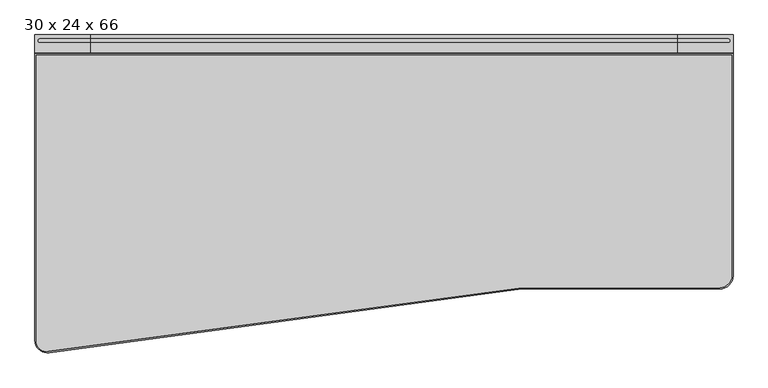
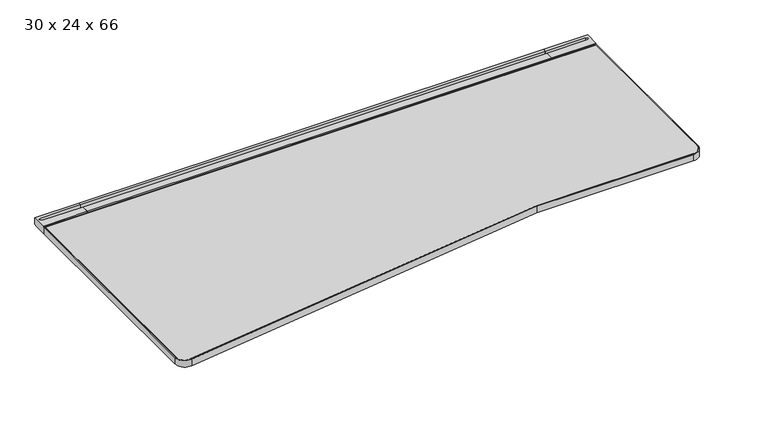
"""IFC4 building model written with IfcOpenShell, lengths in millimetres: furniture geometry, Steelcase - C Scape - Desking - Left Hand Transition : 30 x 24 x 66."""

import ifcopenshell
import ifcopenshell.guid

model = None  # the IFC model being written
_history = None  # IfcOwnerHistory: only IFC2X3 demands one
_inside = {}  # id of a spatial element -> (the spatial element, [elements in it])
_under = {}  # id of a project, library or spatial element -> (it, [spatial elements below it])
_declared = {}  # id of a project -> (the project, [libraries it declares])
_typed = {}  # id of a type object -> (the type object, [elements of that type])
_made_of = {}  # id of a material, layer set ... -> (it, [elements and type objects made of it])


def new_model(schema):
    """Start an empty IFC model of exactly this schema.

    Asked for "IFC4X3", IfcOpenShell would pick the latest addendum, in which some entities
    have other attributes; the version numbers below select the first issue.
    IFC2X3 requires an IfcOwnerHistory on every rooted entity: one is made here for all.
    """
    global model, _history
    if schema == "IFC4X3":
        model = ifcopenshell.file(schema_version=(4, 3, 0, 0))
    else:
        model = ifcopenshell.file(schema=schema)
    _inside.clear()
    _under.clear()
    _declared.clear()
    _typed.clear()
    _made_of.clear()
    _history = None
    if model.schema == "IFC2X3":
        org = make("IfcOrganization", Name="unknown")
        user = make(
            "IfcPersonAndOrganization",
            ThePerson=make("IfcPerson", FamilyName="unknown"),
            TheOrganization=org,
        )
        app = make(
            "IfcApplication",
            ApplicationDeveloper=org,
            Version="unknown",
            ApplicationFullName="unknown",
            ApplicationIdentifier="unknown",
        )
        _history = make(
            "IfcOwnerHistory",
            OwningUser=user,
            OwningApplication=app,
            ChangeAction="ADDED",
            CreationDate=0,
        )
    return model


def make(cls, **values):
    """One entity of the class cls with the attributes given. An attribute that is None is left unset."""
    return model.create_entity(
        cls, **{name: value for name, value in values.items() if value is not None}
    )


def rooted(cls, **values):
    """An entity with a GlobalId (a new one), such as an element, a storey or a relation."""
    return make(cls, GlobalId=ifcopenshell.guid.new(), OwnerHistory=_history, **values)


def si_unit(unit_type, name, prefix=None):
    """IfcSIUnit, for example si_unit("LENGTHUNIT", "METRE", prefix="MILLI")."""
    return make("IfcSIUnit", UnitType=unit_type, Prefix=prefix, Name=name)


def assignment(units):
    """IfcUnitAssignment: the units of a project."""
    return None if units is None else make("IfcUnitAssignment", Units=units)


def point(xyz):
    """IfcCartesianPoint."""
    return None if xyz is None else make("IfcCartesianPoint", Coordinates=xyz)


def direction(xyz):
    """IfcDirection."""
    return None if xyz is None else make("IfcDirection", DirectionRatios=xyz)


def frame(location, z_axis=None, x_axis=None):
    """IfcAxis2Placement3D, a coordinate frame: its origin and axes. An axis left out is left unset."""
    return make(
        "IfcAxis2Placement3D",
        Location=point(location),
        Axis=direction(z_axis),
        RefDirection=direction(x_axis),
    )


def frame_2d(location, x_axis=None):
    """IfcAxis2Placement2D, a coordinate frame in the plane: its origin and x axis."""
    return make(
        "IfcAxis2Placement2D", Location=point(location), RefDirection=direction(x_axis)
    )


def origin():
    """The frame at (0, 0, 0) with its axes left unset."""
    return frame((0.0, 0.0, 0.0))


def place(relative_to, where):
    """IfcLocalPlacement: puts the frame where relative to a parent placement (None: the world)."""
    return make(
        "IfcLocalPlacement", PlacementRelTo=relative_to, RelativePlacement=where
    )


def context(
    kind, dimensions, precision=None, world=None, true_north=None, identifier=None
):
    """IfcGeometricRepresentationContext, for example the 3D "Model" context."""
    return make(
        "IfcGeometricRepresentationContext",
        ContextIdentifier=identifier,
        ContextType=kind,
        CoordinateSpaceDimension=dimensions,
        Precision=precision,
        WorldCoordinateSystem=world,
        TrueNorth=true_north,
    )


def project(units=None, contexts=None):
    """IfcProject with its units and contexts."""
    return rooted(
        "IfcProject",
        Name="project",
        RepresentationContexts=contexts,
        UnitsInContext=assignment(units),
    )


def spatial(cls, under=None, at=None, **own):
    """A site, building, storey or space (cls), placed at a placement, below another one or the project."""
    s = rooted(cls, ObjectPlacement=at, **own)
    if under is not None:
        _under.setdefault(under.id(), (under, []))[1].append(s)
    return s


def polyline(points):
    """IfcPolyline through the points."""
    return make("IfcPolyline", Points=[point(p) for p in points])


def circle_curve(where, radius):
    """IfcCircle in the frame where."""
    return make("IfcCircle", Position=where, Radius=radius)


def trimmed(basis, trim1, trim2, sense, master):
    """IfcTrimmedCurve: the piece of a basis curve between two trims."""
    return make(
        "IfcTrimmedCurve",
        BasisCurve=basis,
        Trim1=trim1,
        Trim2=trim2,
        SenseAgreement=sense,
        MasterRepresentation=master,
    )


def segment(curve, same_sense, transition):
    """IfcCompositeCurveSegment."""
    return make(
        "IfcCompositeCurveSegment",
        Transition=transition,
        SameSense=same_sense,
        ParentCurve=curve,
    )


def composite_curve(segments, self_intersect=None):
    """IfcCompositeCurve: segments joined end to end."""
    return make("IfcCompositeCurve", Segments=segments, SelfIntersect=self_intersect)


def outline(outer, holes=None, kind="AREA"):
    """IfcArbitraryClosedProfileDef: a profile drawn as a closed curve; with holes, ...WithVoids."""
    if holes is None:
        return make("IfcArbitraryClosedProfileDef", ProfileType=kind, OuterCurve=outer)
    return make(
        "IfcArbitraryProfileDefWithVoids",
        ProfileType=kind,
        OuterCurve=outer,
        InnerCurves=holes,
    )


def extrude(swept, where, along, depth):
    """IfcExtrudedAreaSolid: the profile swept, set in the frame where, extruded along a direction by depth."""
    return make(
        "IfcExtrudedAreaSolid",
        SweptArea=swept,
        Position=where,
        ExtrudedDirection=direction(along),
        Depth=depth,
    )


def faces_of(points, faces, orient=None, outer=None):
    """IfcFace entities. A face is a list of loops; a loop is a list of indices into points, from 0.

    orient and outer hold one flag for each loop. By default every Orientation is true, the
    first loop of a face is its IfcFaceOuterBound and the others are IfcFaceBound.
    """
    made = []
    for i, loops in enumerate(faces):
        bounds = []
        for j, loop in enumerate(loops):
            is_outer = j == 0 if outer is None else outer[i][j]
            bounds.append(
                make(
                    "IfcFaceOuterBound" if is_outer else "IfcFaceBound",
                    Bound=make("IfcPolyLoop", Polygon=[points[k] for k in loop]),
                    Orientation=True if orient is None else orient[i][j],
                )
            )
        made.append(make("IfcFace", Bounds=bounds))
    return made


def faceted_brep(points, faces, orient=None, outer=None, voids=None):
    """IfcFacetedBrep: a solid bounded by flat faces; with voids (closed shells), ...WithVoids."""
    shared = [point(p) for p in points]
    hull = make("IfcClosedShell", CfsFaces=faces_of(shared, faces, orient, outer))
    if voids is None:
        return make("IfcFacetedBrep", Outer=hull)
    return make(
        "IfcFacetedBrepWithVoids",
        Outer=hull,
        Voids=[
            make(cls, CfsFaces=faces_of(shared, fs, o, b)) for cls, fs, o, b in voids
        ],
    )


def shape(context_of_items, identifier, shape_type, items):
    """IfcShapeRepresentation: the items that make up one representation, for example the "Body"."""
    return make(
        "IfcShapeRepresentation",
        ContextOfItems=context_of_items,
        RepresentationIdentifier=identifier,
        RepresentationType=shape_type,
        Items=items,
    )


def source(mapping_origin, context_of_items, identifier, shape_type, items):
    """IfcRepresentationMap: a shape defined once, which mapped items show again and again."""
    return make(
        "IfcRepresentationMap",
        MappingOrigin=mapping_origin,
        MappedRepresentation=shape(context_of_items, identifier, shape_type, items),
    )


def transform(
    local_origin,
    x_axis=None,
    y_axis=None,
    z_axis=None,
    scale=None,
    scale2=None,
    scale3=None,
    uniform=True,
):
    """IfcCartesianTransformationOperator3D, or its non-uniform kind. x_axis, y_axis, z_axis: its Axis1, 2, 3."""
    if uniform:
        return make(
            "IfcCartesianTransformationOperator3D",
            Axis1=direction(x_axis),
            Axis2=direction(y_axis),
            LocalOrigin=point(local_origin),
            Scale=scale,
            Axis3=direction(z_axis),
        )
    return make(
        "IfcCartesianTransformationOperator3DnonUniform",
        Axis1=direction(x_axis),
        Axis2=direction(y_axis),
        LocalOrigin=point(local_origin),
        Scale=scale,
        Axis3=direction(z_axis),
        Scale2=scale2,
        Scale3=scale3,
    )


def mapped(mapping_source, mapping_target):
    """IfcMappedItem: shows the shape of a source again, moved by a transform."""
    return make(
        "IfcMappedItem", MappingSource=mapping_source, MappingTarget=mapping_target
    )


def made_of(thing, what):
    """Note that an element or type object is made of a material, layer set ...; save() writes the relation."""
    if what is not None:
        _made_of.setdefault(what.id(), (what, []))[1].append(thing)
    return thing


def element(
    cls,
    number,
    at=None,
    inside=None,
    cuts=None,
    type_object=None,
    material=None,
    context=None,
    identifier="Body",
    shape_type=None,
    held_by="IfcProductDefinitionShape",
    body=None,
    shapes=None,
    **own,
):
    """One element of the class cls, such as IfcWall. Its Tag is "e" and its number.

    at: its placement. inside: the storey or other place that contains it. cuts: it is an
    opening in that element (IfcRelVoidsElement). A single representation is given by context,
    identifier, shape_type and body (its items); several are given by shapes. held_by: the class
    of the entity that holds the representations. save() writes the other relations.
    """
    e = rooted(cls, Tag="e%d" % number, ObjectPlacement=at, **own)
    if body is not None:
        shapes = [shape(context, identifier, shape_type, body)]
    if shapes is not None:
        e.Representation = make(held_by, Representations=shapes)
    if inside is not None:
        _inside.setdefault(inside.id(), (inside, []))[1].append(e)
    if cuts is not None:
        rooted(
            "IfcRelVoidsElement", RelatingBuildingElement=cuts, RelatedOpeningElement=e
        )
    if type_object is not None:
        _typed.setdefault(type_object.id(), (type_object, []))[1].append(e)
    return made_of(e, material)


def aggregate(whole, parts):
    """IfcRelAggregates: a whole, such as a stair, and the parts it consists of."""
    return rooted("IfcRelAggregates", RelatingObject=whole, RelatedObjects=parts)


def save(model, path):
    """Write the relations noted so far, then the file.

    IfcRelAggregates (storeys below a building ...), IfcRelContainedInSpatialStructure (elements
    in a storey), IfcRelDefinesByType, IfcRelAssociatesMaterial and IfcRelDeclares: one each for
    every whole, place, type object, material and project.
    """
    for whole, parts in _under.values():
        aggregate(whole, parts)
    for where, things in _inside.values():
        rooted(
            "IfcRelContainedInSpatialStructure",
            RelatedElements=things,
            RelatingStructure=where,
        )
    for kind, things in _typed.values():
        rooted("IfcRelDefinesByType", RelatedObjects=things, RelatingType=kind)
    for what, things in _made_of.values():
        rooted("IfcRelAssociatesMaterial", RelatedObjects=things, RelatingMaterial=what)
    for by, libraries in _declared.values():
        rooted("IfcRelDeclares", RelatingContext=by, RelatedDefinitions=libraries)
    model.write(path)


def plane_surface(at):
    """IfcPlane: the flat surface through the origin of the frame at, square to its z axis."""
    return make("IfcPlane", Position=at)


def cylinder_surface(at, radius):
    """IfcCylindricalSurface: all points at the distance radius from the z axis of the frame at."""
    return make("IfcCylindricalSurface", Position=at, Radius=radius)


def revolved_surface(curve, axis_point, axis_direction):
    """IfcSurfaceOfRevolution: the curve turned about the line through axis_point along axis_direction."""
    return make(
        "IfcSurfaceOfRevolution",
        SweptCurve=make("IfcArbitraryOpenProfileDef", ProfileType="CURVE", Curve=curve),
        AxisPosition=make("IfcAxis1Placement", Location=point(axis_point), Axis=direction(axis_direction)),
    )


def advanced_brep(points, edges, surfaces, faces):
    """IfcAdvancedBrep: a solid bounded by faces that lie on surfaces and meet in shared edges.

    An edge is (start, end): straight between two places in points (the first is 0);
    or (start, end, curve); or (start, end, curve, False) where it runs against its curve.
    A face is (place in surfaces, loops), or (place, loops, False) where it looks against
    its surface's normal. A loop lists edges by number (the first is 1), with a minus sign
    where the edge is run from its end to its start. The first loop is the outer one.
    """
    corners = [point(p) for p in points]
    vertices = [make("IfcVertexPoint", VertexGeometry=c) for c in corners]
    made = []
    for start, end, *more in edges:
        made.append(
            make(
                "IfcEdgeCurve",
                EdgeStart=vertices[start],
                EdgeEnd=vertices[end],
                EdgeGeometry=more[0] if more else make("IfcPolyline", Points=[corners[start], corners[end]]),
                SameSense=more[1] if len(more) > 1 else True,
            )
        )
    hull = []
    for where, loops, *sense in faces:
        bounds = []
        for j, loop in enumerate(loops):
            ring = [make("IfcOrientedEdge", EdgeElement=made[abs(k) - 1], Orientation=k > 0) for k in loop]
            bounds.append(
                make(
                    "IfcFaceOuterBound" if j == 0 else "IfcFaceBound",
                    Bound=make("IfcEdgeLoop", EdgeList=ring),
                    Orientation=True,
                )
            )
        hull.append(make("IfcAdvancedFace", Bounds=bounds, FaceSurface=surfaces[where], SameSense=sense[0] if sense else True))
    return make("IfcAdvancedBrep", Outer=make("IfcClosedShell", CfsFaces=hull))


def furniture_30_x_24_x_66_db10c3b4(model_context):
    return source(origin(), model_context, "Body", "SolidModel", [
        advanced_brep(
        [(134.6072876, -45.3135132, 703.3768), (134.6072876, -4.0331902, 703.3768), (134.6072876, -3.2278472, 705.1038636), (134.6072876, 0.0, 705.1038636), (134.6072876, 0.0, 725.932), (134.6072876, -8.5111084, 725.932), (134.6072876, -8.5111084, 713.486), (134.6072876, -19.3290527, 713.486), (134.6072876, -19.3290527, 725.932), (134.6072876, -42.7750923, 725.932), (134.6072876, -42.7750923, 722.4268341), (134.6072876, -45.3135132, 722.4268341), (1.5875, -45.3135132, 703.3768), (1.5875, -45.3135132, 722.4268341), (1.5875, -42.7750923, 722.4268341), (1.5875, -42.7750923, 725.932), (1.5875, 0.0, 725.932), (1.5875, 0.0, 705.1038636), (1.5875, -3.2278472, 705.1038636), (1.5875, -4.0331902, 703.3768), (13.3495728, -19.3290527, 725.932), (13.3495728, -8.5111084, 725.932), (13.3495728, -8.5111084, 713.486), (13.3495728, -19.3290527, 713.486)],
        [
            (0, 1),
            (1, 2),
            (2, 3),
            (3, 4),
            (4, 5),
            (5, 6),
            (6, 7),
            (7, 8),
            (8, 9),
            (9, 10),
            (10, 11),
            (11, 0),
            (12, 13),
            (13, 14),
            (14, 15),
            (15, 16),
            (16, 17),
            (17, 18),
            (18, 19),
            (19, 12),
            (0, 12),
            (19, 1),
            (18, 2),
            (17, 3),
            (16, 4),
            (15, 9),
            (8, 20),
            (20, 21, circle_curve(frame((13.3495728, -13.9200806, 725.932), z_axis=(0.0, 0.0, -1.0), x_axis=(1.0, 0.0, 0.0)), 5.4089722)),
            (21, 5),
            (14, 10),
            (13, 11),
            (6, 22),
            (22, 23, circle_curve(frame((13.3495728, -13.9200806, 713.486), z_axis=(0.0, 0.0, 1.0), x_axis=(1.0, 0.0, 0.0)), 5.4089722)),
            (23, 7),
            (21, 22),
            (20, 23),
        ],
        [
            plane_surface(frame((134.6072876, -45.3135132, 703.3768), z_axis=(1.0, 0.0, 0.0), x_axis=(0.0, 1.0, 0.0))),
            plane_surface(frame((1.5875, -45.3135132, 703.3768), z_axis=(-1.0, 0.0, 0.0), x_axis=(0.0, -1.0, 0.0))),
            plane_surface(frame((134.6072876, -45.3135132, 703.3768), z_axis=(0.0, 0.0, -1.0), x_axis=(-1.0, 0.0, 0.0))),
            plane_surface(frame((134.6072876, -4.0331902, 703.3768), z_axis=(0.0, 0.9063077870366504, -0.4226182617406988), x_axis=(-1.0, 0.0, 0.0))),
            plane_surface(frame((134.6072876, -3.2278472, 705.1038636), z_axis=(0.0, 0.0, -1.0), x_axis=(-1.0, 0.0, 0.0))),
            plane_surface(frame((134.6072876, 0.0, 705.1038636), z_axis=(0.0, 1.0, 0.0), x_axis=(-1.0, 0.0, 0.0))),
            plane_surface(frame((134.6072876, 0.0, 725.932), z_axis=(0.0, 0.0, 1.0), x_axis=(-1.0, 0.0, 0.0))),
            plane_surface(frame((134.6072876, -42.7750923, 725.932), z_axis=(0.0, -1.0, 0.0), x_axis=(-1.0, 0.0, 0.0))),
            plane_surface(frame((134.6072876, -42.7750923, 722.4268341), z_axis=(0.0, 0.0, 1.0), x_axis=(-1.0, 0.0, 0.0))),
            plane_surface(frame((134.6072876, -45.3135132, 722.4268341), z_axis=(0.0, -1.0, 0.0), x_axis=(-1.0, 0.0, 0.0))),
            plane_surface(frame((13.3495728, -8.5111084, 713.486), z_axis=(0.0, 0.0, 1.0), x_axis=(1.0, 0.0, 0.0))),
            plane_surface(frame((134.6072876, -8.5111084, 731.2180541), z_axis=(0.0, -1.0, 0.0), x_axis=(0.0, 0.0, -1.0))),
            revolved_surface(polyline([(18.758545, -13.9200806, 725.932), (18.758545, -13.9200806, 713.486)]), (13.3495728, -13.9200806, 713.486), (0.0, 0.0, 1.0)),
            plane_surface(frame((13.3495728, -19.3290527, 731.2180541), z_axis=(0.0, 1.0, 0.0), x_axis=(0.0, 0.0, -1.0))),
        ],
        [
            (0, [[1, 2, 3, 4, 5, 6, 7, 8, 9, 10, 11, 12]]),
            (1, [[13, 14, 15, 16, 17, 18, 19, 20]]),
            (2, [[-1, 21, -20, 22]]),
            (3, [[-2, -22, -19, 23]]),
            (4, [[-3, -23, -18, 24]]),
            (5, [[-4, -24, -17, 25]]),
            (6, [[-16, 26, -9, 27, 28, 29, -5, -25]]),
            (7, [[-10, -26, -15, 30]]),
            (8, [[-11, -30, -14, 31]]),
            (9, [[-12, -31, -13, -21]]),
            (10, [[32, 33, 34, -7]]),
            (11, [[-32, -6, -29, 35]]),
            (12, [[-33, -35, -28, 36]]),
            (13, [[-34, -36, -27, -8]]),
        ],
    ),
        faceted_brep([(20.6382632, -565.0752923, 700.7093833), (34.9133728, -565.0752923, 693.4200291), (116.3525879, -565.0752923, 693.4200291), (118.9731301, -565.0752923, 679.3263935), (134.6072876, -565.0752923, 679.3263935), (134.6072876, -565.0752923, 703.3768), (20.6382632, -565.0752923, 703.3768), (20.6382632, -4.0331902, 700.7093833), (20.6382632, -4.0331902, 703.3768), (134.6072876, -4.0331902, 703.3768), (134.6072876, -4.0331902, 629.3866), (128.2588347, -4.0331902, 629.3866), (116.3525879, -4.0331902, 693.4200291), (34.9133728, -4.0331902, 693.4200291), (128.2588347, -364.1172546, 629.3866), (121.1384051, -376.5599397, 667.6812472), (134.6072876, -364.1172546, 629.3866), (134.6072876, -376.5599397, 667.6812472)], [[[0, 1, 2, 3, 4, 5, 6]], [[7, 8, 9, 10, 11, 12, 13]], [[1, 0, 7, 13]], [[2, 1, 13, 12]], [[12, 11, 14, 15, 3, 2]], [[11, 10, 16, 14]], [[10, 9, 5, 4, 17, 16]], [[6, 5, 9, 8]], [[0, 6, 8, 7]], [[15, 17, 4, 3]], [[17, 15, 14, 16]]]),
        extrude(outline(composite_curve([segment(polyline([(-293.5216187, 657.3775839), (-559.0022133, 680.1371551)]), True, "CONTINUOUS"), segment(trimmed(circle_curve(frame_2d((-558.7581271, 682.9843154)), 2.8576039), [point((-559.0022133, 680.1371551))], [point((-561.5383043, 682.3236226))], False, "CARTESIAN"), True, "CONTINUOUS"), segment(polyline([(-561.5383043, 682.3236226), (-566.0887542, 701.4717905), (-557.8334441, 701.4717905), (-557.8334441, 703.3768), (-442.6683806, 703.3768), (-442.6683806, 696.3917953), (-318.2108611, 696.3917953), (-318.2108611, 703.3768), (-293.5216187, 703.3768), (-293.5216187, 657.3775839)]), True, "CONTINUOUS")], self_intersect=False)), frame((801.624, 0.0, 0.0), z_axis=(1.0, 0.0, 0.0), x_axis=(0.0, 1.0, 0.0)), (0.0, 0.0, 1.0), 73.152),
        advanced_brep(
        [(1541.7927124, -45.3135132, 703.3768), (1541.7927124, -45.3135132, 722.4268341), (1541.7927124, -42.7750923, 722.4268341), (1541.7927124, -42.7750923, 725.932), (1541.7927124, -19.3290527, 725.932), (1541.7927124, -19.3290527, 713.486), (1541.7927124, -8.5111084, 713.486), (1541.7927124, -8.5111084, 725.932), (1541.7927124, 0.0, 725.932), (1541.7927124, 0.0, 705.1038636), (1541.7927124, -3.2278472, 705.1038636), (1541.7927124, -4.0331902, 703.3768), (1674.8125, -45.3135132, 703.3768), (1674.8125, -4.0331902, 703.3768), (1674.8125, -3.2278472, 705.1038636), (1674.8125, 0.0, 705.1038636), (1674.8125, 0.0, 725.932), (1674.8125, -42.7750923, 725.932), (1674.8125, -42.7750923, 722.4268341), (1674.8125, -45.3135132, 722.4268341), (1663.0504272, -8.5111084, 725.932), (1663.0504272, -19.3290527, 725.932), (1663.0504272, -19.3290527, 713.486), (1663.0504272, -8.5111084, 713.486)],
        [
            (0, 1),
            (1, 2),
            (2, 3),
            (3, 4),
            (4, 5),
            (5, 6),
            (6, 7),
            (7, 8),
            (8, 9),
            (9, 10),
            (10, 11),
            (11, 0),
            (12, 13),
            (13, 14),
            (14, 15),
            (15, 16),
            (16, 17),
            (17, 18),
            (18, 19),
            (19, 12),
            (11, 13),
            (12, 0),
            (10, 14),
            (9, 15),
            (8, 16),
            (7, 20),
            (20, 21, circle_curve(frame((1663.0504272, -13.9200806, 725.932), z_axis=(0.0, 0.0, -1.0), x_axis=(-1.0, 0.0, 0.0)), 5.4089722)),
            (21, 4),
            (3, 17),
            (2, 18),
            (1, 19),
            (5, 22),
            (22, 23, circle_curve(frame((1663.0504272, -13.9200806, 713.486), z_axis=(0.0, 0.0, 1.0), x_axis=(-1.0, 0.0, 0.0)), 5.4089722)),
            (23, 6),
            (23, 20),
            (22, 21),
        ],
        [
            plane_surface(frame((1541.7927124, -45.3135132, 703.3768), z_axis=(-1.0, 0.0, 0.0), x_axis=(0.0, 1.0, 0.0))),
            plane_surface(frame((1674.8125, -45.3135132, 703.3768), z_axis=(1.0, 0.0, 0.0), x_axis=(0.0, -1.0, 0.0))),
            plane_surface(frame((1541.7927124, -45.3135132, 703.3768), z_axis=(0.0, 0.0, -1.0), x_axis=(1.0, 0.0, 0.0))),
            plane_surface(frame((1541.7927124, -4.0331902, 703.3768), z_axis=(0.0, 0.9063077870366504, -0.4226182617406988), x_axis=(1.0, 0.0, 0.0))),
            plane_surface(frame((1541.7927124, -3.2278472, 705.1038636), z_axis=(0.0, 0.0, -1.0), x_axis=(1.0, 0.0, 0.0))),
            plane_surface(frame((1541.7927124, 0.0, 705.1038636), z_axis=(0.0, 1.0, 0.0), x_axis=(1.0, 0.0, 0.0))),
            plane_surface(frame((1541.7927124, 0.0, 725.932), z_axis=(0.0, 0.0, 1.0), x_axis=(1.0, 0.0, 0.0))),
            plane_surface(frame((1541.7927124, -42.7750923, 725.932), z_axis=(0.0, -1.0, 0.0), x_axis=(1.0, 0.0, 0.0))),
            plane_surface(frame((1541.7927124, -42.7750923, 722.4268341), z_axis=(0.0, 0.0, 1.0), x_axis=(1.0, 0.0, 0.0))),
            plane_surface(frame((1541.7927124, -45.3135132, 722.4268341), z_axis=(0.0, -1.0, 0.0), x_axis=(1.0, 0.0, 0.0))),
            plane_surface(frame((1663.0504272, -8.5111084, 713.486), z_axis=(0.0, 0.0, 1.0), x_axis=(-1.0, 0.0, 0.0))),
            plane_surface(frame((1541.7927124, -8.5111084, 731.2180541), z_axis=(0.0, -1.0, 0.0), x_axis=(0.0, 0.0, -1.0))),
            revolved_surface(polyline([(1657.641455, -13.9200806, 725.932), (1657.641455, -13.9200806, 713.486)]), (1663.0504272, -13.9200806, 713.486), (0.0, 0.0, 1.0)),
            plane_surface(frame((1663.0504272, -19.3290527, 731.2180541), z_axis=(0.0, 1.0, 0.0), x_axis=(0.0, 0.0, -1.0))),
        ],
        [
            (0, [[1, 2, 3, 4, 5, 6, 7, 8, 9, 10, 11, 12]]),
            (1, [[13, 14, 15, 16, 17, 18, 19, 20]]),
            (2, [[21, -13, 22, -12]]),
            (3, [[23, -14, -21, -11]]),
            (4, [[24, -15, -23, -10]]),
            (5, [[25, -16, -24, -9]]),
            (6, [[-25, -8, 26, 27, 28, -4, 29, -17]]),
            (7, [[30, -18, -29, -3]]),
            (8, [[31, -19, -30, -2]]),
            (9, [[-22, -20, -31, -1]]),
            (10, [[-6, 32, 33, 34]]),
            (11, [[35, -26, -7, -34]]),
            (12, [[36, -27, -35, -33]]),
            (13, [[-5, -28, -36, -32]]),
        ],
    ),
        faceted_brep([(1655.7617368, -565.0752923, 700.7093833), (1655.7617368, -565.0752923, 703.3768), (1541.7927124, -565.0752923, 703.3768), (1541.7927124, -565.0752923, 679.3263935), (1557.4268699, -565.0752923, 679.3263935), (1560.0474121, -565.0752923, 693.4200291), (1641.4866272, -565.0752923, 693.4200291), (1655.7617368, -4.0331902, 700.7093833), (1641.4866272, -4.0331902, 693.4200291), (1560.0474121, -4.0331902, 693.4200291), (1548.1411653, -4.0331902, 629.3866), (1541.7927124, -4.0331902, 629.3866), (1541.7927124, -4.0331902, 703.3768), (1655.7617368, -4.0331902, 703.3768), (1555.2615949, -376.5599397, 667.6812472), (1548.1411653, -364.1172546, 629.3866), (1541.7927124, -364.1172546, 629.3866), (1541.7927124, -376.5599397, 667.6812472)], [[[0, 1, 2, 3, 4, 5, 6]], [[7, 8, 9, 10, 11, 12, 13]], [[6, 8, 7, 0]], [[5, 9, 8, 6]], [[9, 5, 4, 14, 15, 10]], [[10, 15, 16, 11]], [[11, 16, 17, 3, 2, 12]], [[1, 13, 12, 2]], [[0, 7, 13, 1]], [[14, 4, 3, 17]], [[17, 16, 15, 14]]]),
        extrude(outline(polyline([(-8.5111084, 725.932), (0.0, 725.932), (0.0, 705.1038636), (-3.2278472, 705.1038636), (-4.0331902, 703.3768), (-45.3135132, 703.3768), (-45.3135132, 722.4268341), (-42.7750923, 722.4268341), (-42.7750923, 725.932), (-19.3290527, 725.932), (-19.3290527, 713.486), (-8.5111084, 713.486), (-8.5111084, 725.932)])), frame((134.6072876, 0.0, 0.0), z_axis=(1.0, 0.0, 0.0), x_axis=(0.0, 1.0, 0.0)), (0.0, 0.0, 1.0), 1407.1854248),
        extrude(outline(polyline([(1541.7927124, -4.0331902), (1541.7927124, -293.5216187), (134.6072876, -293.5216187), (134.6072876, -4.0331902), (1541.7927124, -4.0331902)])), frame((0.0, 0.0, 629.3866), z_axis=(0.0, 0.0, 1.0), x_axis=(1.0, 0.0, 0.0)), (0.0, 0.0, 1.0), 73.9902),
        advanced_brep(
        [(1671.7645, -48.3660689, 723.9), (4.6355, -48.3660689, 723.9), (4.6355, -734.677348, 723.9), (33.9511745, -759.7737122, 723.9), (1168.3997595, -606.5490234, 723.9), (1643.0625, -606.5490234, 723.9), (1671.7615234, -577.85, 723.9), (1671.7645, -48.3660689, 703.3768), (1671.7645, -577.85, 703.3768), (1643.0625, -606.5490234, 703.3768), (1168.3997595, -606.5490234, 703.3768), (33.9511745, -759.7737122, 703.3768), (4.6355, -734.677348, 703.3768), (4.6355, -48.3660689, 703.3768)],
        [
            (0, 1),
            (1, 2),
            (2, 3, circle_curve(frame((30.0355, -734.677348, 723.9), z_axis=(0.0, 0.0, 1.0), x_axis=(-1.0, 0.0, 0.0)), 25.4)),
            (3, 4),
            (4, 5),
            (5, 6, circle_curve(frame((1643.0625, -577.85, 723.9), z_axis=(0.0, 0.0, 1.0), x_axis=(-1.0, 0.0, 0.0)), 28.6990234)),
            (6, 0),
            (7, 8),
            (8, 9, circle_curve(frame((1643.0625, -577.85, 703.3768), z_axis=(0.0, 0.0, -1.0), x_axis=(-1.0, 0.0, 0.0)), 28.6990234)),
            (9, 10),
            (10, 11),
            (11, 12, circle_curve(frame((30.0355, -734.677348, 703.3768), z_axis=(0.0, 0.0, -1.0), x_axis=(-1.0, 0.0, 0.0)), 25.4)),
            (12, 13),
            (13, 7),
            (0, 7),
            (13, 1),
            (12, 2),
            (11, 3),
            (10, 4),
            (9, 5),
            (8, 6),
        ],
        [
            plane_surface(frame((4.6355, -48.3660689, 723.9), z_axis=(0.0, 0.0, 1.0), x_axis=(-1.0, 0.0, 0.0))),
            plane_surface(frame((4.6355, -48.3660689, 703.3768), z_axis=(0.0, 0.0, -1.0), x_axis=(1.0, 0.0, 0.0))),
            plane_surface(frame((1671.7645, -48.3660689, 723.9), z_axis=(0.0, 1.0, 0.0), x_axis=(0.0, 0.0, -1.0))),
            plane_surface(frame((4.6355, -48.3660689, 723.9), z_axis=(-1.0, 0.0, 0.0), x_axis=(0.0, 0.0, -1.0))),
            cylinder_surface(frame((30.0355, -734.677348, 703.3768), z_axis=(0.0, 0.0, 1.0), x_axis=(-1.0, 0.0, 0.0)), 25.4),
            plane_surface(frame((33.9511745, -759.7737122, 723.9), z_axis=(0.13384997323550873, -0.9910016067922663, 0.0), x_axis=(0.0, 0.0, -1.0))),
            plane_surface(frame((1168.3997595, -606.5490234, 723.9), z_axis=(0.0, -1.0, 0.0), x_axis=(0.0, 0.0, -1.0))),
            cylinder_surface(frame((1643.0625, -577.85, 703.3768), z_axis=(0.0, 0.0, 1.0), x_axis=(-1.0, 0.0, 0.0)), 28.6990234),
            plane_surface(frame((1671.7645, -577.85, 723.9), z_axis=(1.0, 0.0, 0.0), x_axis=(0.0, 0.0, -1.0))),
        ],
        [
            (0, [[1, 2, 3, 4, 5, 6, 7]]),
            (1, [[8, 9, 10, 11, 12, 13, 14]]),
            (2, [[-1, 15, -14, 16]]),
            (3, [[-2, -16, -13, 17]]),
            (4, [[-3, -17, -12, 18]]),
            (5, [[-4, -18, -11, 19]]),
            (6, [[-5, -19, -10, 20]]),
            (7, [[-6, -20, -9, 21]]),
            (8, [[-7, -21, -8, -15]]),
        ],
    ),
        advanced_brep(
        [(4.6384766, -48.3660689, 703.3768), (4.6384766, -48.3660689, 723.9), (4.6384766, -733.2875177, 723.9), (4.6384766, -733.2875177, 703.3768), (1.5875, -45.3150923, 723.9), (1.5875, -45.3150923, 703.3768), (1.5875, -733.2875177, 703.3768), (1.5875, -733.2875177, 723.9), (35.2904734, -759.5278717, 703.3768), (35.2904734, -759.5278717, 723.9), (35.7608132, -762.5423763, 723.9), (35.7608132, -762.5423763, 703.3768), (1168.194941, -606.5490234, 723.9), (1168.194941, -606.5490234, 703.3768), (1168.4, -609.6, 703.3768), (1674.8125, -45.3150923, 703.3768), (1674.8125, -577.85, 703.3768), (1643.0625, -609.6, 703.3768), (1643.0625, -606.5490234, 703.3768), (1671.7615234, -577.85, 703.3768), (1671.7615234, -48.3660689, 703.3768), (1168.4, -609.6, 723.9), (1643.0625, -609.6, 723.9), (1674.8125, -577.85, 723.9), (1674.8125, -45.3150923, 723.9), (1671.7615234, -48.3660689, 723.9), (1671.7615234, -577.85, 723.9), (1643.0625, -606.5490234, 723.9)],
        [
            (0, 1),
            (1, 2),
            (2, 3),
            (3, 0),
            (4, 5),
            (5, 6),
            (6, 7),
            (7, 4),
            (8, 3, circle_curve(frame((31.1963073, -733.2875177, 703.3768), z_axis=(0.0, 0.0, -1.0), x_axis=(-1.0, 0.0, 0.0)), 26.5578307)),
            (2, 9, circle_curve(frame((31.1963073, -733.2875177, 723.9), z_axis=(0.0, 0.0, 1.0), x_axis=(-1.0, 0.0, 0.0)), 26.5578307)),
            (9, 8),
            (10, 7, circle_curve(frame((31.1963073, -733.2875177, 723.9), z_axis=(0.0, 0.0, -1.0), x_axis=(-1.0, 0.0, 0.0)), 29.6088073)),
            (6, 11, circle_curve(frame((31.1963073, -733.2875177, 703.3768), z_axis=(0.0, 0.0, 1.0), x_axis=(-1.0, 0.0, 0.0)), 29.6088073)),
            (11, 10),
            (9, 12),
            (12, 13),
            (13, 8),
            (14, 11),
            (5, 15),
            (15, 16),
            (16, 17, circle_curve(frame((1643.0625, -577.85, 703.3768), z_axis=(0.0, 0.0, -1.0), x_axis=(0.0, -1.0, 0.0)), 31.75)),
            (17, 14),
            (13, 18),
            (18, 19, circle_curve(frame((1643.0625, -577.85, 703.3768), z_axis=(0.0, 0.0, 1.0), x_axis=(0.0, -1.0, 0.0)), 28.6990234)),
            (19, 20),
            (20, 0),
            (14, 21),
            (21, 10),
            (21, 22),
            (22, 23, circle_curve(frame((1643.0625, -577.85, 723.9), z_axis=(0.0, 0.0, 1.0), x_axis=(0.0, -1.0, 0.0)), 31.75)),
            (23, 24),
            (24, 4),
            (1, 25),
            (25, 26),
            (26, 27, circle_curve(frame((1643.0625, -577.85, 723.9), z_axis=(0.0, 0.0, -1.0), x_axis=(0.0, -1.0, 0.0)), 28.6990234)),
            (27, 12),
            (27, 18),
            (17, 22),
            (26, 19),
            (16, 23),
            (25, 20),
            (15, 24),
        ],
        [
            plane_surface(frame((4.6384766, -48.3660689, 723.9), z_axis=(1.0, 0.0, 0.0), x_axis=(0.0, -1.0, 0.0))),
            plane_surface(frame((1.5875, -45.3150923, 703.3768), z_axis=(-1.0, 0.0, 0.0), x_axis=(0.0, -1.0, 0.0))),
            revolved_surface(polyline([(4.638476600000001, -733.2875177, 723.9), (4.638476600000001, -733.2875177, 703.3768)]), (31.1963073, -733.2875177, 0.0), (0.0, 0.0, 1.0)),
            cylinder_surface(frame((31.1963073, -733.2875177, 0.0), z_axis=(0.0, 0.0, 1.0), x_axis=(-1.0, 0.0, 0.0)), 29.6088073),
            plane_surface(frame((35.290374, -759.5272346, 723.9), z_axis=(-0.13381738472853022, 0.9910060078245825, 0.0), x_axis=(0.9910060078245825, 0.13381738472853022, 0.0))),
            plane_surface(frame((35.290374, -759.5272346, 703.3768), z_axis=(0.0, 0.0, -1.0), x_axis=(0.9910060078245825, 0.13381738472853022, 0.0))),
            plane_surface(frame((35.7608132, -762.5423763, 703.3768), z_axis=(0.13381738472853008, -0.9910060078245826, 0.0), x_axis=(0.9910060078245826, 0.13381738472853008, 0.0))),
            plane_surface(frame((35.7608132, -762.5423763, 723.9), z_axis=(0.0, 0.0, 1.0000000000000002), x_axis=(0.9910060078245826, 0.13381738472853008, 0.0))),
            plane_surface(frame((1168.194941, -606.5490234, 723.9), z_axis=(0.0, 1.0, 0.0), x_axis=(1.0, 0.0, 0.0))),
            plane_surface(frame((1168.4, -609.6, 703.3768), z_axis=(0.0, -1.0, 0.0), x_axis=(1.0, 0.0, 0.0))),
            revolved_surface(polyline([(1643.0625, -606.5490234, 723.9), (1643.0625, -606.5490234, 703.3768)]), (1643.0625, -577.85, 0.0), (0.0, 0.0, 1.0)),
            cylinder_surface(frame((1643.0625, -577.85, 0.0), z_axis=(0.0, 0.0, 1.0), x_axis=(0.0, -1.0, 0.0)), 31.75),
            plane_surface(frame((1671.7615234, -577.85, 723.9), z_axis=(-1.0, 0.0, 0.0), x_axis=(0.0, 1.0, 0.0))),
            plane_surface(frame((1674.8125, -577.85, 703.3768), z_axis=(1.0, 0.0, 0.0), x_axis=(0.0, 1.0, 0.0))),
            plane_surface(frame((1671.7615234, -48.3660689, 723.9), z_axis=(0.0, -1.0, 0.0), x_axis=(-1.0, 0.0, 0.0))),
            plane_surface(frame((1674.8125, -45.3150923, 703.3768), z_axis=(0.0, 1.0, 0.0), x_axis=(-1.0, 0.0, 0.0))),
        ],
        [
            (0, [[1, 2, 3, 4]]),
            (1, [[5, 6, 7, 8]]),
            (2, [[9, -3, 10, 11]]),
            (3, [[12, -7, 13, 14]]),
            (4, [[-11, 15, 16, 17]]),
            (5, [[18, -13, -6, 19, 20, 21, 22], [-4, -9, -17, 23, 24, 25, 26]]),
            (6, [[-14, -18, 27, 28]]),
            (7, [[-8, -12, -28, 29, 30, 31, 32], [-15, -10, -2, 33, 34, 35, 36]]),
            (8, [[-16, -36, 37, -23]]),
            (9, [[-27, -22, 38, -29]]),
            (10, [[-24, -37, -35, 39]]),
            (11, [[-30, -38, -21, 40]]),
            (12, [[-39, -34, 41, -25]]),
            (13, [[-40, -20, 42, -31]]),
            (14, [[-41, -33, -1, -26]]),
            (15, [[-42, -19, -5, -32]]),
        ],
    ),
    ])


if __name__ == "__main__":
    model = new_model("IFC4")
    model_context = context("Model", 3, world=origin())
    ifc_project = project(units=[si_unit("LENGTHUNIT", "METRE", prefix="MILLI")], contexts=[model_context])
    site = spatial("IfcSite", under=ifc_project)
    building = spatial("IfcBuilding", under=site)
    placement = place(None, origin())
    furniture_30_x_24_x_66_shape = furniture_30_x_24_x_66_db10c3b4(model_context)
    element("IfcFurniture", 1, ObjectType="Steelcase - C Scape - Desking - Left Hand Transition : 30 x 24 x 66", at=placement, inside=building, context=model_context, shape_type="MappedRepresentation", body=[
        mapped(furniture_30_x_24_x_66_shape, transform((0.0, 0.0, 0.0), x_axis=(1.0, 0.0, 0.0), y_axis=(0.0, 1.0, 0.0), z_axis=(0.0, 0.0, 1.0))),
    ])
    save(model, "model.ifc")
